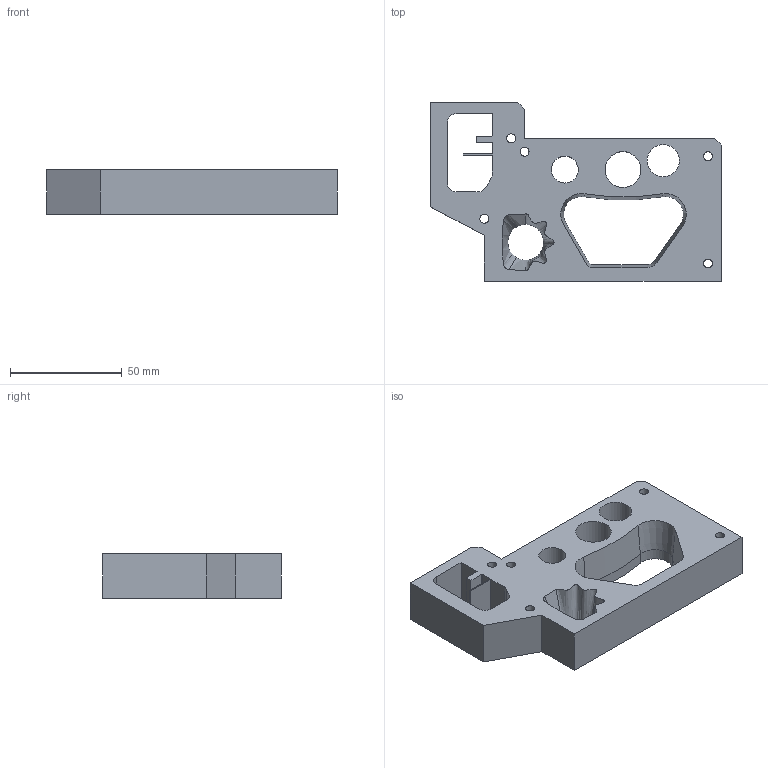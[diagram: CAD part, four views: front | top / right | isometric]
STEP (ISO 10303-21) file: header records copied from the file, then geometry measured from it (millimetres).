
FILE_DESCRIPTION(('STEP AP214'),'1');
FILE_NAME('EDM Plate.STEP','2026-08-12T07:19:11',(' '),('GO2cam international'),'Spatial InterOp 3D','GO2cam V6.13',' ');
FILE_SCHEMA(('AUTOMOTIVE_DESIGN { 1 0 10303 214 1 1 1 1 }'));
Length unit declared in the file: millimetre
Products named in the file (1): 1
Bounding box: 130 x 80 x 20 mm (x, y, z)
Volume: 109031.5 mm3; surface area: 30050.8 mm2
Topology: 1 solids, 1 shells, 64 faces, 178 edges, 116 vertices
Faces by surface type: plane 31, cylinder 22, bspline 6, cone 5
Full cylindrical faces by diameter (mm): 4 x5, 12 x1, 14.4 x1, 16 x1
Entity records: 3757 total; most frequent: CARTESIAN_POINT 837, ORIENTED_EDGE 340, DIRECTION 333, STYLED_ITEM 218, PRESENTATION_STYLE_ASSIGNMENT 218, COLOUR_RGB 218, EDGE_CURVE 170, CURVE_STYLE 170
